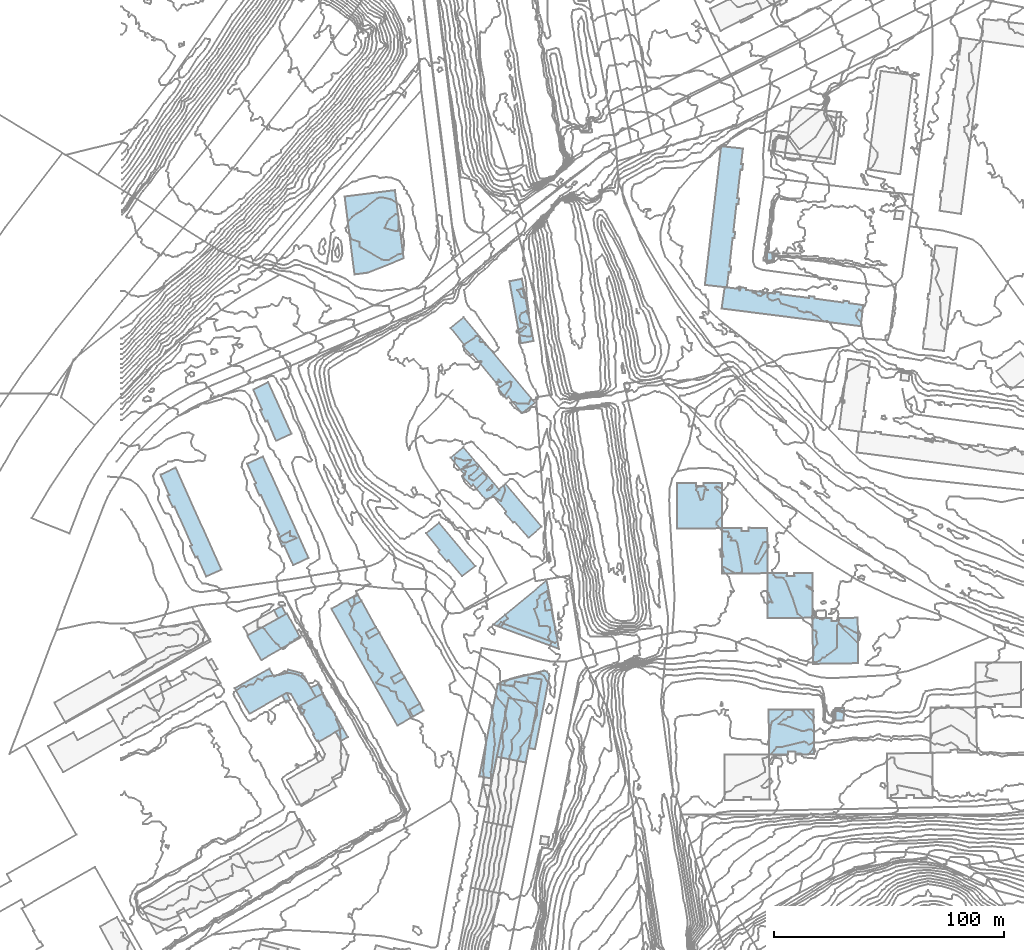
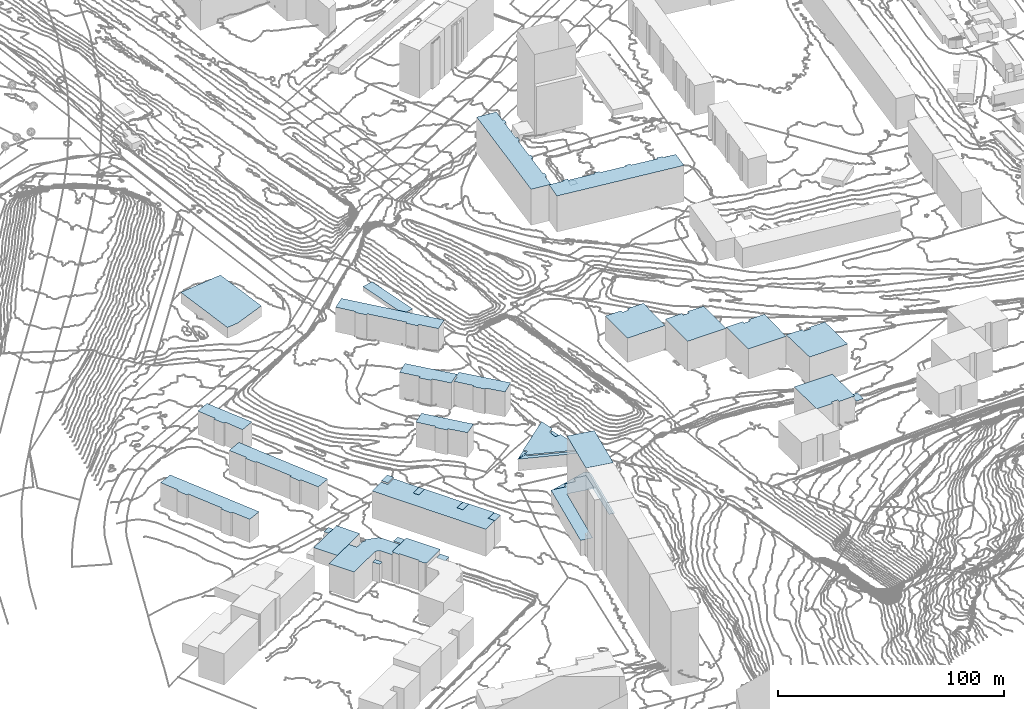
# Not in any storey, part 73 of 419: 36 roofs.
"""IFC2X3 model written with IfcOpenShell, lengths in metres."""

from ifc_helpers import new_model, si_unit, frame, origin_with_axes, place, context, subcontext, project, faceted_brep, element, save


model = new_model("IFC2X3")

# Units and contexts
model_context = context("Model", 3, precision=1e-05, world=origin_with_axes())
body_context = subcontext(model_context, "Body", "Model", "MODEL_VIEW")
ifc_project = project(units=[si_unit("AREAUNIT", "SQUARE_METRE"), si_unit("LENGTHUNIT", "METRE")], contexts=[model_context])

# Roofs
roof_1_placement = place(None, frame((261.1920204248, 673.8976909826, 29.2109998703), z_axis=(0.0, 0.0, 1.0), x_axis=(1.0, 0.0, 0.0)))
element("IfcRoof", 1, at=roof_1_placement, Name="Toiture 0", ShapeType="NOTDEFINED", context=body_context, shape_type="Brep", body=[
    faceted_brep([(8.1, 8.5, 19.4890001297), (2.3, 9.2000000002, 19.4890001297), (1.3, 9.0999999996, 19.4890001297), (0.0, 0.0, 19.4890001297), (60.6, -7.7000000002, 19.4890001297), (61.7000000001, 1.5, 19.4890001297), (55.5, 2.2999999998, 19.4890001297), (55.6, 3.0999999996, 19.4890001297), (53.1, 3.4000000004, 19.4890001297), (40.5, 4.2999999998, 19.4890001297), (40.6, 5.0999999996, 19.4890001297), (38.1, 5.4000000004, 19.4890001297), (25.7000000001, 6.2000000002, 19.4890001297), (25.8, 7.0, 19.4890001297), (23.3, 7.2999999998, 19.4890001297), (10.6, 8.0999999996, 19.4890001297), (10.7000000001, 8.9000000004, 19.4890001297), (8.2000000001, 9.2999999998, 19.4890001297), (38.0, 4.5999999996, 19.4890001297), (23.2000000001, 6.5, 19.4890001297), (53.0, 2.5999999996, 19.4890001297)], [[[0, 1, 2]], [[2, 3, 4]], [[4, 5, 6]], [[6, 7, 8]], [[9, 10, 11]], [[12, 13, 14]], [[15, 16, 17]], [[0, 2, 4]], [[4, 6, 8]], [[9, 11, 18]], [[12, 14, 19]], [[15, 17, 0]], [[4, 8, 20]], [[20, 9, 18]], [[18, 12, 19]], [[15, 0, 4]], [[4, 20, 18]], [[18, 19, 15]], [[15, 4, 18]]]),
])
roof_2_placement = place(None, frame((261.3920204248, 558.3976909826, 23.918000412), z_axis=(0.0, 0.0, 1.0), x_axis=(1.0, 0.0, 0.0)))
element("IfcRoof", 2, at=roof_2_placement, Name="Toiture 0", ShapeType="NOTDEFINED", context=body_context, shape_type="Brep", body=[
    faceted_brep([(8.5, 19.9000000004, 16.181999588), (0.0, 19.7999999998, 16.181999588), (0.0, 0.0, 16.181999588), (19.7999999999, 0.2000000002, 16.181999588), (19.7, 19.9000000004, 16.181999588), (11.5, 20.0, 16.181999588), (11.6, 18.5999999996, 16.181999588), (8.3999999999, 18.5999999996, 16.181999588)], [[[0, 1, 2]], [[2, 3, 4]], [[4, 5, 6]], [[7, 0, 2]], [[2, 4, 6]], [[6, 7, 2]]]),
])
roof_3_placement = place(None, frame((166.4920204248, 536.4976909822, 18.7135003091), z_axis=(0.0, 0.0, 1.0), x_axis=(1.0, 0.0, 0.0)))
element("IfcRoof", 3, at=roof_3_placement, Name="Toiture 0", ShapeType="NOTDEFINED", context=body_context, shape_type="Brep", body=[
    faceted_brep([(18.5, 19.0, 6.4864996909), (0.4, 4.0, 6.4864996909), (1.6, 2.4000000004, 6.4864996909), (0.0, 1.1000000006, 6.4864996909), (0.0, 0.0, 6.4864996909), (22.1, -8.2999999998, 6.4864996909), (23.2, -7.2999999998, 6.4864996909), (20.7999999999, 6.2000000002, 6.4864996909), (18.0, 5.8000000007, 6.4864996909), (17.5, 9.9000000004, 6.4864996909), (19.7999999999, 12.1000000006, 6.4864996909)], [[[0, 1, 2]], [[2, 3, 4]], [[4, 5, 6]], [[6, 7, 8]], [[9, 10, 0]], [[0, 2, 4]], [[4, 6, 8]], [[9, 0, 4]], [[4, 8, 9]]]),
])
roof_4_placement = place(None, frame((183.9920204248, 546.3976909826, 18.9063995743), z_axis=(0.0, 0.0, 1.0), x_axis=(1.0, 0.0, 0.0)))
element("IfcRoof", 4, at=roof_4_placement, Name="Toiture 0", ShapeType="NOTDEFINED", context=body_context, shape_type="Brep", body=[
    faceted_brep([(3.2999999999, -3.7000000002, 5.1936004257), (2.2999999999, 2.2000000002, 5.1936004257), (0.0, 0.0, 5.1936004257), (0.5, -4.0999999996, 5.1936004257)], [[[0, 1, 2]], [[2, 3, 0]]]),
])
roof_5_placement = place(None, frame((82.1920204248, 508.6976909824, 9.9609997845), z_axis=(0.0, 0.0, 1.0), x_axis=(1.0, 0.0, 0.0)))
element("IfcRoof", 5, at=roof_5_placement, Name="Toiture 0", ShapeType="NOTDEFINED", context=body_context, shape_type="Brep", body=[
    faceted_brep([(3.2000000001, 1.6000000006, 15.0390002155), (0.0, 0.0, 15.0390002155), (2.3, -4.0, 15.0390002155), (5.3, -2.3999999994, 15.0390002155)], [[[0, 1, 2]], [[2, 3, 0]]]),
])
roof_6_placement = place(None, frame((93.0920204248, 489.4976909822, 9.7441997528), z_axis=(0.0, 0.0, 1.0), x_axis=(1.0, 0.0, 0.0)))
element("IfcRoof", 6, at=roof_6_placement, Name="Toiture 0", ShapeType="NOTDEFINED", context=body_context, shape_type="Brep", body=[
    faceted_brep([(5.3, -2.1999999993, 13.9558002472), (3.0, 1.8000000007, 13.9558002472), (0.0, 0.0, 13.9558002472), (2.2, -4.0, 13.9558002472)], [[[0, 1, 2]], [[2, 3, 0]]]),
])
roof_7_placement = place(None, frame((125.1920204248, 499.1976909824, 14.0700001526), z_axis=(0.0, 0.0, 1.0), x_axis=(1.0, 0.0, 0.0)))
element("IfcRoof", 7, at=roof_7_placement, Name="Toiture 0", ShapeType="NOTDEFINED", context=body_context, shape_type="Brep", body=[
    faceted_brep([(0.0, 0.0, 13.7299998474), (1.6, -3.0, 13.7299998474), (6.1, -0.3999999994, 13.7299998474), (4.6, 2.6000000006, 13.7299998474)], [[[0, 1, 2]], [[2, 3, 0]]]),
])
roof_8_placement = place(None, frame((106.1920204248, 532.6976909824, 14.2120002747), z_axis=(0.0, 0.0, 1.0), x_axis=(1.0, 0.0, 0.0)))
element("IfcRoof", 8, at=roof_8_placement, Name="Toiture 0", ShapeType="NOTDEFINED", context=body_context, shape_type="Brep", body=[
    faceted_brep([(5.9, 0.1000000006, 13.7879997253), (4.4, 2.5, 13.7879997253), (0.0, 0.0, 13.7879997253), (1.4, -2.5, 13.7879997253)], [[[0, 1, 2]], [[2, 3, 0]]]),
])
roof_9_placement = place(None, frame((66.1920204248, 542.4976909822, 10.0399999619), z_axis=(0.0, 0.0, 1.0), x_axis=(1.0, 0.0, 0.0)))
element("IfcRoof", 9, at=roof_9_placement, Name="Toiture 0", ShapeType="NOTDEFINED", context=body_context, shape_type="Brep", body=[
    faceted_brep([(3.4, 1.9000000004, 5.0600000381), (0.0, 0.0, 5.0600000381), (2.0, -3.5, 5.0600000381), (5.2000000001, -1.5999999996, 5.0600000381)], [[[0, 1, 2]], [[2, 3, 0]]]),
])
roof_10_placement = place(None, frame((54.5920204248, 531.3976909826, 9.7736001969), z_axis=(0.0, 0.0, 1.0), x_axis=(1.0, 0.0, 0.0)))
element("IfcRoof", 10, at=roof_10_placement, Name="Toiture 0", ShapeType="NOTDEFINED", context=body_context, shape_type="Brep", body=[
    faceted_brep([(17.3, 9.7000000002, 7.5263998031), (0.4, 0.2999999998, 7.5263998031), (0.0, 0.0, 7.5263998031), (6.1, -10.5999999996, 7.5263998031), (23.1, -0.7999999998, 7.5263998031)], [[[0, 1, 2]], [[2, 3, 4]], [[4, 0, 2]]]),
])
roof_11_placement = place(None, frame((163.2920204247, 478.5976909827, 16.6299998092), z_axis=(0.0, 0.0, 1.0), x_axis=(1.0, 0.0, 0.0)))
element("IfcRoof", 11, at=roof_11_placement, Name="Toiture 0", ShapeType="NOTDEFINED", context=body_context, shape_type="Brep", body=[
    faceted_brep([(0.0, 0.0, 37.6700001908), (12.6000000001, -2.5, 37.6700001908), (17.7000000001, 23.2000000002, 37.6700001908), (5.1000000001, 25.5999999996, 37.6700001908)], [[[0, 1, 2]], [[2, 3, 0]]]),
])
roof_12_placement = place(None, frame((310.6920204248, 499.5976909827, 27.395499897), z_axis=(0.0, 0.0, 1.0), x_axis=(1.0, 0.0, 0.0)))
element("IfcRoof", 12, at=roof_12_placement, Name="Toiture 0", ShapeType="NOTDEFINED", context=body_context, shape_type="Brep", body=[
    faceted_brep([(0.1, -5.2000000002, 1.904500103), (3.7000000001, -5.1000000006, 1.904500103), (3.8, 0.2999999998, 1.904500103), (0.0, 0.0, 1.904500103)], [[[0, 1, 2]], [[2, 3, 0]]]),
])
roof_13_placement = place(None, frame((98.0920204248, 546.9976909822, 13.6560001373), z_axis=(0.0, 0.0, 1.0), x_axis=(1.0, 0.0, 0.0)))
element("IfcRoof", 13, at=roof_13_placement, Name="Toiture 0", ShapeType="NOTDEFINED", context=body_context, shape_type="Brep", body=[
    faceted_brep([(4.5, 2.5, 15.1439998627), (0.0, 0.0, 15.1439998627), (1.7, -2.8999999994, 15.1439998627), (6.2, -0.3999999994, 15.1439998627)], [[[0, 1, 2]], [[2, 3, 0]]]),
])
roof_14_placement = place(None, frame((300.6920204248, 539.1976909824, 25.8771994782), z_axis=(0.0, 0.0, 1.0), x_axis=(1.0, 0.0, 0.0)))
element("IfcRoof", 14, at=roof_14_placement, Name="Toiture 0", ShapeType="NOTDEFINED", context=body_context, shape_type="Brep", body=[
    faceted_brep([(8.3, -0.0999999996, 15.6228005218), (0.0, 0.0, 15.6228005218), (0.4, -20.0999999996, 15.6228005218), (20.0, -19.7999999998, 15.6228005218), (19.8, 0.0, 15.6228005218), (11.6, -0.0999999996, 15.6228005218), (11.6, -1.2999999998, 15.6228005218), (8.3, -1.3999999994, 15.6228005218)], [[[0, 1, 2]], [[2, 3, 4]], [[4, 5, 6]], [[7, 0, 2]], [[2, 4, 6]], [[6, 7, 2]]]),
])
roof_15_placement = place(None, frame((143.1920204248, 665.4976909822, 21.6827999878), z_axis=(0.0, 0.0, 1.0), x_axis=(1.0, 0.0, 0.0)))
element("IfcRoof", 15, at=roof_15_placement, Name="Toiture 0", ShapeType="NOTDEFINED", context=body_context, shape_type="Brep", body=[
    faceted_brep([(5.6, 4.6000000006, 13.3172000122), (0.0, 0.0, 13.3172000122), (6.0, -7.3999999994, 13.3172000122), (5.4, -7.8999999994, 13.3172000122), (8.8, -11.8999999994, 13.3172000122), (21.4, -25.7999999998, 13.3172000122), (20.8, -26.3999999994, 13.3172000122), (24.3, -30.6999999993, 13.3172000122), (25.1, -30.0, 13.3172000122), (31.1, -37.0999999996, 13.3172000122), (36.7000000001, -32.5999999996, 13.3172000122), (9.5, -11.5, 13.3172000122)], [[[0, 1, 2]], [[2, 3, 4]], [[5, 6, 7]], [[8, 9, 10]], [[10, 0, 2]], [[2, 4, 11]], [[5, 7, 8]], [[10, 2, 11]], [[11, 5, 8]], [[8, 10, 11]]]),
])
roof_16_placement = place(None, frame((281.6920204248, 499.2976909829, 29.7783000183), z_axis=(0.0, 0.0, 1.0), x_axis=(1.0, 0.0, 0.0)))
element("IfcRoof", 16, at=roof_16_placement, Name="Toiture 0", ShapeType="NOTDEFINED", context=body_context, shape_type="Brep", body=[
    faceted_brep([(0.0, 0.0, 14.4216999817), (0.2000000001, -19.7000000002, 14.4216999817), (8.5, -19.7000000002, 14.4216999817), (11.7000000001, -18.5, 14.4216999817), (11.7000000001, -19.8000000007, 14.4216999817), (19.8, -19.5, 14.4216999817), (19.6, 0.0, 14.4216999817), (8.5, -18.4000000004, 14.4216999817)], [[[0, 1, 2]], [[3, 4, 5]], [[5, 6, 0]], [[0, 2, 7]], [[3, 5, 0]], [[0, 7, 3]]]),
])
roof_17_placement = place(None, frame((163.6920204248, 510.2976909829, 17.7051999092), z_axis=(0.0, 0.0, 1.0), x_axis=(1.0, 0.0, 0.0)))
element("IfcRoof", 17, at=roof_17_placement, Name="Toiture 0", ShapeType="NOTDEFINED", context=body_context, shape_type="Brep", body=[
    faceted_brep([(2.3, 1.2999999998, 4.2948000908), (0.0, 0.0, 4.2948000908), (7.1, -1.1000000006, 4.2948000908), (7.5, 1.0999999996, 4.2948000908), (12.9, 0.2999999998, 4.2948000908), (13.4, 2.7999999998, 4.2948000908), (19.1, 2.0, 4.2948000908), (13.6, -27.9000000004, 4.2948000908), (16.2000000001, -28.4000000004, 4.2948000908), (22.5, 3.3999999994, 4.2948000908), (22.3, 4.3999999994, 4.2948000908), (21.4, 5.3999999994, 4.2948000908), (20.1, 5.7999999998, 4.2948000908)], [[[0, 1, 2]], [[3, 4, 5]], [[6, 7, 8]], [[8, 9, 10]], [[10, 11, 12]], [[0, 2, 3]], [[6, 8, 10]], [[10, 12, 0]], [[0, 3, 5]], [[5, 6, 10]], [[10, 0, 5]]]),
])
roof_18_placement = place(None, frame((69.6920204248, 505.3976909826, 9.9300001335), z_axis=(0.0, 0.0, 1.0), x_axis=(1.0, 0.0, 0.0)))
element("IfcRoof", 18, at=roof_18_placement, Name="Toiture 0", ShapeType="NOTDEFINED", context=body_context, shape_type="Brep", body=[
    faceted_brep([(2.0, 1.0999999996, 10.0699998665), (0.0, 0.0, 10.0699998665), (1.7000000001, -3.0999999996, 10.0699998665), (3.7000000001, -2.0, 10.0699998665)], [[[0, 1, 2]], [[2, 3, 0]]]),
])
roof_19_placement = place(None, frame((49.0920204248, 508.4976909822, 9.7259999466), z_axis=(0.0, 0.0, 1.0), x_axis=(1.0, 0.0, 0.0)))
element("IfcRoof", 19, at=roof_19_placement, Name="Toiture 0", ShapeType="NOTDEFINED", context=body_context, shape_type="Brep", body=[
    faceted_brep([(33.1, 0.2000000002, 14.6740000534), (30.4, 5.1000000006, 14.6740000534), (29.4, 5.5, 14.6740000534), (29.5, 6.4000000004, 14.6740000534), (23.2, 8.1000000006, 14.6740000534), (22.8, 7.2000000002, 14.6740000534), (21.7, 7.4000000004, 14.6740000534), (17.2, 5.0, 14.6740000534), (15.1, 8.6000000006, 14.6740000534), (0.0, 0.0, 14.6740000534), (6.4, -11.0999999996, 14.6740000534), (22.6, -2.0, 14.6740000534), (24.6, -2.5999999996, 14.6740000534), (27.7, -8.0, 14.6740000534), (35.4, -3.7999999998, 14.6740000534)], [[[0, 1, 2]], [[2, 3, 4]], [[5, 6, 7]], [[7, 8, 9]], [[9, 10, 11]], [[12, 13, 14]], [[14, 0, 2]], [[2, 4, 5]], [[7, 9, 11]], [[11, 12, 14]], [[14, 2, 5]], [[5, 7, 11]], [[11, 14, 5]]]),
])
roof_20_placement = place(None, frame((280.3920204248, 694.9976909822, 29.9621998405), z_axis=(0.0, 0.0, 1.0), x_axis=(1.0, 0.0, 0.0)))
element("IfcRoof", 20, at=roof_20_placement, Name="Toiture 0", ShapeType="NOTDEFINED", context=body_context, shape_type="Brep", body=[
    faceted_brep([(0.6, 3.5, 4.8378001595), (0.0, 0.0, 4.8378001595), (3.5, -0.2999999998, 4.8378001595), (4.0, 2.9000000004, 4.8378001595)], [[[0, 1, 2]], [[2, 3, 0]]]),
])
roof_21_placement = place(None, frame((168.7920204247, 685.7976909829, 22.6524004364), z_axis=(0.0, 0.0, 1.0), x_axis=(1.0, 0.0, 0.0)))
element("IfcRoof", 21, at=roof_21_placement, Name="Toiture 0", ShapeType="NOTDEFINED", context=body_context, shape_type="Brep", body=[
    faceted_brep([(5.4, 1.0999999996, 2.2475995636), (0.0, 0.0, 2.2475995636), (5.0, -27.0, 2.2475995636), (10.5, -26.0, 2.2475995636)], [[[0, 1, 2]], [[2, 3, 0]]]),
])
roof_22_placement = place(None, frame((161.6920204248, 536.1976909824, 18.3032001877), z_axis=(0.0, 0.0, 1.0), x_axis=(1.0, 0.0, 0.0)))
element("IfcRoof", 22, at=roof_22_placement, Name="Toiture 0", ShapeType="NOTDEFINED", context=body_context, shape_type="Brep", body=[
    faceted_brep([(6.4, 2.7000000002, 6.3967998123), (5.2000000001, 4.2999999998, 6.3967998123), (0.0, 0.0, 6.3967998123), (28.6, -10.5999999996, 6.3967998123), (28.0, -7.0, 6.3967998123), (26.9, -8.0, 6.3967998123), (4.8, 1.4000000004, 6.3967998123), (4.8, 0.2999999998, 6.3967998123)], [[[0, 1, 2]], [[3, 4, 5]], [[6, 0, 2]], [[2, 3, 5]], [[7, 6, 2]], [[2, 5, 7]]]),
])
roof_23_placement = place(None, frame((117.2920204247, 513.1976909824, 14.2434998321), z_axis=(0.0, 0.0, 1.0), x_axis=(1.0, 0.0, 0.0)))
element("IfcRoof", 23, at=roof_23_placement, Name="Toiture 0", ShapeType="NOTDEFINED", context=body_context, shape_type="Brep", body=[
    faceted_brep([(1.4, -2.7000000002, 13.7565001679), (6.0, -0.0999999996, 13.7565001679), (4.5, 2.4000000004, 13.7565001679), (0.0, 0.0, 13.7565001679)], [[[0, 1, 2]], [[2, 3, 0]]]),
])
roof_24_placement = place(None, frame((76.6920204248, 499.7976909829, 9.8620001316), z_axis=(0.0, 0.0, 1.0), x_axis=(1.0, 0.0, 0.0)))
element("IfcRoof", 24, at=roof_24_placement, Name="Toiture 0", ShapeType="NOTDEFINED", context=body_context, shape_type="Brep", body=[
    faceted_brep([(10.8, 6.5, 16.3379998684), (7.8, 4.8999999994, 16.3379998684), (0.1, 0.6999999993, 16.3379998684), (0.4, 0.1999999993, 16.3379998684), (0.0, 0.0, 16.3379998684), (1.5, -2.8000000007, 16.3379998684), (7.0, -11.3000000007, 16.3379998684), (6.5, -11.5, 16.3379998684), (8.2000000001, -14.4000000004, 16.3379998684), (8.6, -14.2000000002, 16.3379998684), (8.9, -14.7000000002, 16.3379998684), (19.4, -8.5, 16.3379998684), (2.0, -2.5, 16.3379998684)], [[[0, 1, 2]], [[3, 4, 5]], [[6, 7, 8]], [[9, 10, 11]], [[11, 0, 2]], [[3, 5, 12]], [[6, 8, 9]], [[11, 2, 3]], [[6, 9, 11]], [[11, 3, 12]], [[12, 6, 11]]]),
])
roof_25_placement = place(None, frame((155.5920204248, 470.0976909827, 14.5910001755), z_axis=(0.0, 0.0, 1.0), x_axis=(1.0, 0.0, 0.0)))
element("IfcRoof", 25, at=roof_25_placement, Name="Toiture 0", ShapeType="NOTDEFINED", context=body_context, shape_type="Brep", body=[
    faceted_brep([(12.8, 34.0999999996, 8.4089998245), (25.4, 31.7000000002, 8.4089998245), (27.2, 42.2000000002, 8.4089998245), (21.5, 43.0, 8.4089998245), (21.0, 40.5, 8.4089998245), (15.6, 41.2999999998, 8.4089998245), (15.2, 39.0999999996, 8.4089998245), (8.1, 40.2000000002, 8.4089998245), (0.0, 0.0, 8.4089998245), (5.7, -1.0, 8.4089998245)], [[[0, 1, 2]], [[2, 3, 4]], [[4, 5, 6]], [[7, 8, 9]], [[0, 2, 4]], [[7, 9, 0]], [[0, 4, 6]], [[6, 7, 0]]]),
])
roof_26_placement = place(None, frame((132.4920204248, 575.9976909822, 17.4988001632), z_axis=(0.0, 0.0, 1.0), x_axis=(1.0, 0.0, 0.0)))
element("IfcRoof", 26, at=roof_26_placement, Name="Toiture 0", ShapeType="NOTDEFINED", context=body_context, shape_type="Brep", body=[
    faceted_brep([(5.6, 4.6000000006, 13.4011998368), (0.0, 0.0, 13.4011998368), (5.9, -7.2999999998, 13.4011998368), (5.2999999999, -7.8999999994, 13.4011998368), (9.0, -12.2999999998, 13.4011998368), (9.7, -11.6999999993, 13.4011998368), (15.7, -18.5999999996, 13.4011998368), (21.4, -14.1999999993, 13.4011998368)], [[[0, 1, 2]], [[2, 3, 4]], [[5, 6, 7]], [[7, 0, 2]], [[2, 4, 5]], [[5, 7, 2]]]),
])
roof_27_placement = place(None, frame((16.6920204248, 601.4976909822, 10.534799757), z_axis=(0.0, 0.0, 1.0), x_axis=(1.0, 0.0, 0.0)))
element("IfcRoof", 27, at=roof_27_placement, Name="Toiture 0", ShapeType="NOTDEFINED", context=body_context, shape_type="Brep", body=[
    faceted_brep([(6.7000000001, 3.1000000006, 12.665200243), (0.0, 0.0, 12.665200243), (3.9, -8.7999999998, 12.665200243), (3.1, -9.0999999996, 12.665200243), (5.4, -14.0999999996, 12.665200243), (13.7000000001, -30.5999999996, 12.665200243), (13.0, -31.0, 12.665200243), (15.3, -36.0, 12.665200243), (16.1, -35.6999999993, 12.665200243), (20.0, -44.2999999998, 12.665200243), (26.6, -41.2999999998, 12.665200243), (6.2000000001, -13.7999999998, 12.665200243)], [[[0, 1, 2]], [[2, 3, 4]], [[5, 6, 7]], [[8, 9, 10]], [[10, 0, 2]], [[2, 4, 11]], [[5, 7, 8]], [[10, 2, 11]], [[11, 5, 8]], [[8, 10, 11]]]),
])
roof_28_placement = place(None, frame((253.8920204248, 684.1976909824, 29.122400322), z_axis=(0.0, 0.0, 1.0), x_axis=(1.0, 0.0, 0.0)))
element("IfcRoof", 28, at=roof_28_placement, Name="Toiture 0", ShapeType="NOTDEFINED", context=body_context, shape_type="Brep", body=[
    faceted_brep([(0.0, 0.0, 19.477599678), (9.6, -1.0999999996, 19.477599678), (10.3999999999, 5.5, 19.477599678), (11.2, 5.4000000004, 19.477599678), (11.5, 8.0, 19.477599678), (12.1, 20.5, 19.477599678), (12.8999999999, 20.4000000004, 19.477599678), (13.2, 23.0, 19.477599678), (13.7999999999, 35.2999999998, 19.477599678), (14.6, 35.2000000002, 19.477599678), (14.8999999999, 37.7000000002, 19.477599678), (15.5, 50.2000000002, 19.477599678), (16.2999999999, 50.1000000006, 19.477599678), (16.6, 52.6000000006, 19.477599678), (15.7999999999, 52.7000000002, 19.477599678), (16.6, 59.4000000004, 19.477599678), (7.1, 60.4000000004, 19.477599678), (10.7, 8.1000000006, 19.477599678), (12.3999999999, 23.1000000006, 19.477599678), (14.1, 37.7999999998, 19.477599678)], [[[0, 1, 2]], [[2, 3, 4]], [[5, 6, 7]], [[8, 9, 10]], [[11, 12, 13]], [[14, 15, 16]], [[16, 0, 2]], [[2, 4, 17]], [[5, 7, 18]], [[8, 10, 19]], [[11, 13, 14]], [[16, 2, 17]], [[5, 18, 8]], [[8, 19, 11]], [[11, 14, 16]], [[16, 17, 5]], [[5, 8, 11]], [[11, 16, 5]]]),
])
roof_29_placement = place(None, frame((281.1920204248, 558.5976909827, 24.3062007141), z_axis=(0.0, 0.0, 1.0), x_axis=(1.0, 0.0, 0.0)))
element("IfcRoof", 29, at=roof_29_placement, Name="Toiture 0", ShapeType="NOTDEFINED", context=body_context, shape_type="Brep", body=[
    faceted_brep([(8.5, 0.0, 16.3937992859), (0.0, 0.0, 16.3937992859), (0.1, -19.5, 16.3937992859), (19.5, -19.4000000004, 16.3937992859), (19.7000000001, 0.0999999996, 16.3937992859), (11.6, 0.0999999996, 16.3937992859), (11.7000000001, -1.2000000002, 16.3937992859), (8.4, -1.2000000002, 16.3937992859)], [[[0, 1, 2]], [[2, 3, 4]], [[4, 5, 6]], [[7, 0, 2]], [[2, 4, 6]], [[6, 7, 2]]]),
])
roof_30_placement = place(None, frame((57.1920204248, 638.6976909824, 12.5381999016), z_axis=(0.0, 0.0, 1.0), x_axis=(1.0, 0.0, 0.0)))
element("IfcRoof", 30, at=roof_30_placement, Name="Toiture 0", ShapeType="NOTDEFINED", context=body_context, shape_type="Brep", body=[
    faceted_brep([(6.5, 3.1000000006, 12.6618000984), (0.0, 0.0, 12.6618000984), (3.8, -8.7000000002, 12.6618000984), (3.0, -9.0, 12.6618000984), (5.3, -14.0, 12.6618000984), (6.2000000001, -13.5999999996, 12.6618000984), (9.9, -22.3999999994, 12.6618000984), (16.6, -19.2999999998, 12.6618000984)], [[[0, 1, 2]], [[2, 3, 4]], [[5, 6, 7]], [[7, 0, 2]], [[2, 4, 5]], [[5, 7, 2]]]),
])
roof_31_placement = place(None, frame((91.1920204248, 543.1976909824, 13.3583998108), z_axis=(0.0, 0.0, 1.0), x_axis=(1.0, 0.0, 0.0)))
element("IfcRoof", 31, at=roof_31_placement, Name="Toiture 0", ShapeType="NOTDEFINED", context=body_context, shape_type="Brep", body=[
    faceted_brep([(28.8, -50.8999999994, 14.6416001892), (35.6, -47.0, 14.6416001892), (34.0, -44.0, 14.6416001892), (38.6, -41.3999999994, 14.6416001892), (32.1, -30.0999999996, 14.6416001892), (26.1, -30.0, 14.6416001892), (30.6, -27.5999999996, 14.6416001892), (20.9, -10.3999999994, 14.6416001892), (15.0, -10.5, 14.6416001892), (19.4, -8.0, 14.6416001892), (13.1, 3.4000000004, 14.6416001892), (8.6, 0.9000000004, 14.6416001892), (6.9, 3.7999999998, 14.6416001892), (0.0, 0.0, 14.6416001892), (27.5, -32.7000000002, 14.6416001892), (16.4, -13.0, 14.6416001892), (15.7000000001, -11.8999999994, 14.6416001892)], [[[0, 1, 2]], [[2, 3, 4]], [[5, 6, 7]], [[8, 9, 10]], [[11, 12, 13]], [[13, 0, 2]], [[2, 4, 14]], [[5, 7, 15]], [[8, 10, 11]], [[13, 2, 14]], [[14, 5, 15]], [[16, 8, 11]], [[13, 14, 15]], [[16, 11, 13]], [[13, 15, 16]]]),
])
roof_32_placement = place(None, frame((54.4920204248, 606.2976909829, 11.641999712), z_axis=(0.0, 0.0, 1.0), x_axis=(1.0, 0.0, 0.0)))
element("IfcRoof", 32, at=roof_32_placement, Name="Toiture 0", ShapeType="NOTDEFINED", context=body_context, shape_type="Brep", body=[
    faceted_brep([(6.9, 3.1999999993, 12.858000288), (0.0, 0.0, 12.858000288), (3.9, -8.5, 12.858000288), (3.2, -8.9000000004, 12.858000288), (5.4, -13.8000000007, 12.858000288), (13.9, -30.6000000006, 12.858000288), (13.2, -30.9000000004, 12.858000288), (15.2999999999, -36.0, 12.858000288), (16.2, -35.7000000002, 12.858000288), (20.1, -44.2000000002, 12.858000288), (26.7999999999, -41.0, 12.858000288), (6.1, -13.6000000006, 12.858000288)], [[[0, 1, 2]], [[2, 3, 4]], [[5, 6, 7]], [[8, 9, 10]], [[10, 0, 2]], [[2, 4, 11]], [[5, 7, 8]], [[10, 2, 11]], [[5, 8, 10]], [[10, 11, 5]]]),
])
roof_33_placement = place(None, frame((241.8920204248, 577.9976909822, 23.506999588), z_axis=(0.0, 0.0, 1.0), x_axis=(1.0, 0.0, 0.0)))
element("IfcRoof", 33, at=roof_33_placement, Name="Toiture 0", ShapeType="NOTDEFINED", context=body_context, shape_type="Brep", body=[
    faceted_brep([(0.0, 0.0, 13.193000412), (19.5, 0.2000000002, 13.193000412), (19.6, 19.8000000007, 13.193000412), (11.5, 19.8000000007, 13.193000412), (11.5, 18.6000000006, 13.193000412), (8.2, 18.5, 13.193000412), (8.2, 19.8000000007, 13.193000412), (0.0, 19.8000000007, 13.193000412)], [[[0, 1, 2]], [[2, 3, 4]], [[5, 6, 7]], [[0, 2, 4]], [[5, 7, 0]], [[0, 4, 5]]]),
])
roof_34_placement = place(None, frame((143.1920204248, 608.8976909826, 19.6647996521), z_axis=(0.0, 0.0, 1.0), x_axis=(1.0, 0.0, 0.0)))
element("IfcRoof", 34, at=roof_34_placement, Name="Toiture 0", ShapeType="NOTDEFINED", context=body_context, shape_type="Brep", body=[
    faceted_brep([(18.4, -16.4000000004, 14.4352003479), (21.3, -14.0999999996, 14.4352003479), (21.0, -13.5999999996, 14.4352003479), (5.5, 4.7000000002, 14.4352003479), (0.0, 0.0, 14.4352003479), (6.2000000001, -7.4000000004, 14.4352003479), (5.3, -8.0999999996, 14.4352003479), (9.0, -12.4000000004, 14.4352003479), (9.8, -11.7000000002, 14.4352003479), (15.7000000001, -18.7000000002, 14.4352003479)], [[[0, 1, 2]], [[2, 3, 4]], [[5, 6, 7]], [[8, 9, 0]], [[0, 2, 4]], [[5, 7, 8]], [[0, 4, 5]], [[5, 8, 0]]]),
])
roof_35_placement = place(None, frame((161.5920204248, 592.4976909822, 19.2395999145), z_axis=(0.0, 0.0, 1.0), x_axis=(1.0, 0.0, 0.0)))
element("IfcRoof", 35, at=roof_35_placement, Name="Toiture 0", ShapeType="NOTDEFINED", context=body_context, shape_type="Brep", body=[
    faceted_brep([(2.9, 2.3000000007, 13.4604000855), (0.0, 0.0, 13.4604000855), (5.8, -7.0999999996, 13.4604000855), (5.2, -7.5999999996, 13.4604000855), (8.8, -11.8999999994, 13.4604000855), (9.4, -11.5, 13.4604000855), (15.5, -18.3999999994, 13.4604000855), (21.2, -13.5, 13.4604000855), (5.4, 5.1000000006, 13.4604000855), (2.6, 2.8000000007, 13.4604000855)], [[[0, 1, 2]], [[2, 3, 4]], [[5, 6, 7]], [[7, 8, 9]], [[0, 2, 4]], [[7, 9, 0]], [[0, 4, 5]], [[5, 7, 0]]]),
])
roof_36_placement = place(None, frame((96.9920204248, 722.6976909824, 18.6733999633), z_axis=(0.0, 0.0, 1.0), x_axis=(1.0, 0.0, 0.0)))
element("IfcRoof", 36, at=roof_36_placement, Name="Toiture 0", ShapeType="NOTDEFINED", context=body_context, shape_type="Brep", body=[
    faceted_brep([(21.9, 2.7999999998, 5.8266000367), (0.0, 0.0, 5.8266000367), (4.2999999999, -33.8999999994, 5.8266000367), (10.0, -33.2000000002, 5.8266000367), (25.7, -26.8999999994, 5.8266000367)], [[[0, 1, 2]], [[2, 3, 4]], [[4, 0, 2]]]),
])

save(model, "model.ifc")
